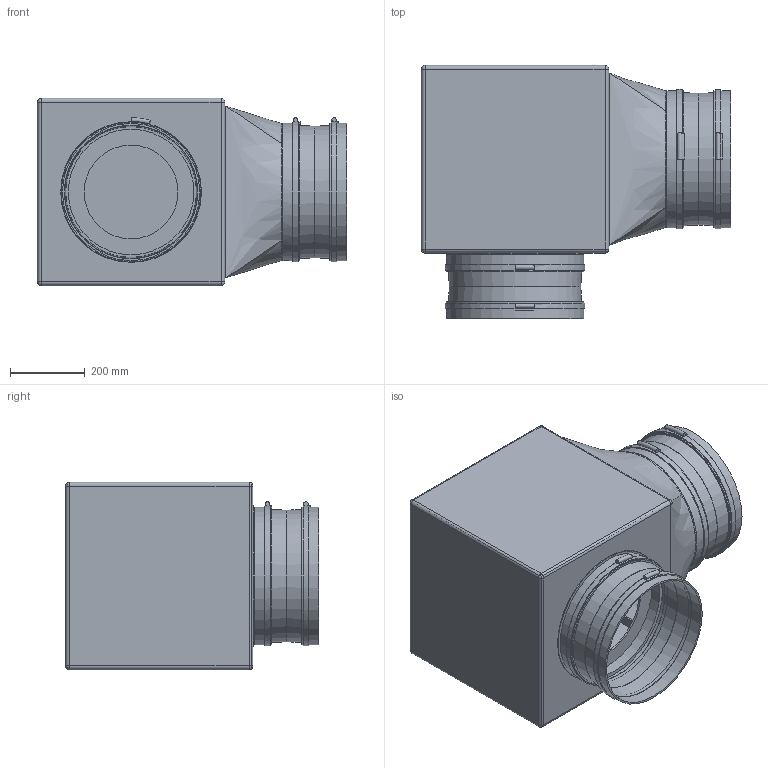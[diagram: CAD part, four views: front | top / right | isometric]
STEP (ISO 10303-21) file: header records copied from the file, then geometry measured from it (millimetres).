
FILE_DESCRIPTION(/* description */ (''),/* implementation_level */ '2;1');
FILE_NAME(/* name */ 'Z:\Output\GBW_355_4_T120_Radial-05770-001.stp',/* time_stamp */ '2017-05-09T00:03:08+02:00',/* author */ ('jayeshpanchal'),/* organization */ (''),/* preprocessor_version */ 'ST-DEVELOPER v16.5',/* originating_system */ 'Autodesk Inventor 2017',/* authorisation */ '');
FILE_SCHEMA (('AUTOMOTIVE_DESIGN { 1 0 10303 214 3 1 1 }'));
Length unit declared in the file: millimetre
Products named in the file (1): GB-2
Bounding box: 825 x 675 x 500 mm (x, y, z)
Volume: 9069585.9 mm3; surface area: 4194962.2 mm2
Topology: 9 solids, 10 shells, 141 faces, 274 edges, 166 vertices
Faces by surface type: plane 55, cylinder 50, bspline 16, cone 8, sphere 8, torus 4
Full cylindrical faces by diameter (mm): 15 x2, 250 x1, 335 x1, 345 x1, 355 x2, 356 x8, 365 x2, 366 x8, 372 x4, 375 x1
Entity records: 4087 total; most frequent: CARTESIAN_POINT 1298, DIRECTION 596, ORIENTED_EDGE 474, AXIS2_PLACEMENT_3D 251, EDGE_CURVE 231, EDGE_LOOP 214, VERTEX_POINT 161, FACE_OUTER_BOUND 141
